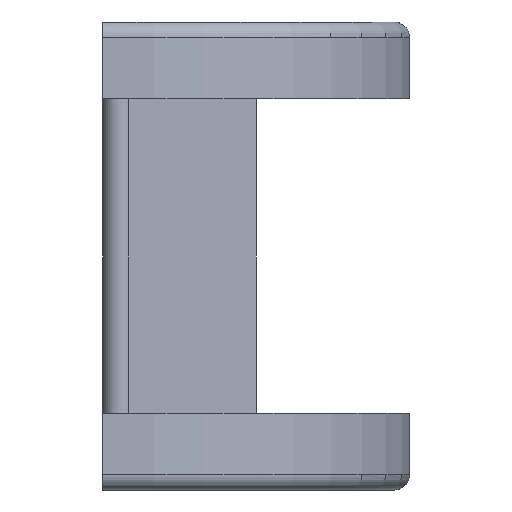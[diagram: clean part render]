
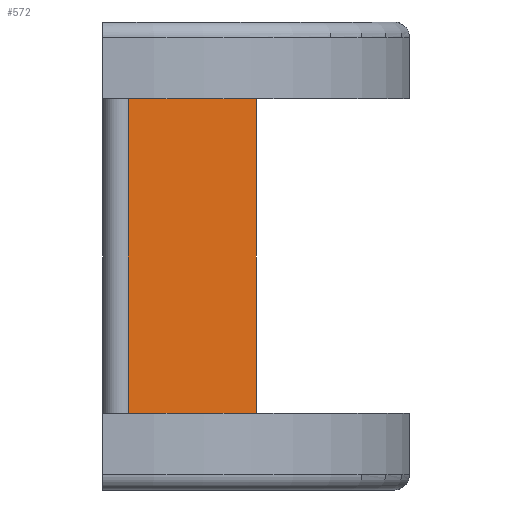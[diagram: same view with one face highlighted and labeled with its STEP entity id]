
A CAD part, front view. The second image highlights one B-rep face of the part: STEP entity #572.
In plain terms, the highlighted planar face has unit normal (0.684, -0.73, 0).
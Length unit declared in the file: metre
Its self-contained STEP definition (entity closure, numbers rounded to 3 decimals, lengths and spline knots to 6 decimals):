
#55=LINE('',#914,#105);
#66=LINE('',#943,#116);
#67=LINE('',#946,#117);
#68=LINE('',#947,#118);
#105=VECTOR('',#727,1.);
#116=VECTOR('',#754,1.);
#117=VECTOR('',#755,1.);
#118=VECTOR('',#756,1.);
#196=ORIENTED_EDGE('',*,*,#339,.F.);
#197=ORIENTED_EDGE('',*,*,#340,.T.);
#198=ORIENTED_EDGE('',*,*,#324,.T.);
#199=ORIENTED_EDGE('',*,*,#341,.F.);
#324=EDGE_CURVE('',#399,#398,#55,.T.);
#339=EDGE_CURVE('',#409,#410,#66,.T.);
#340=EDGE_CURVE('',#409,#399,#67,.T.);
#341=EDGE_CURVE('',#410,#398,#68,.T.);
#398=VERTEX_POINT('',#913);
#399=VERTEX_POINT('',#915);
#409=VERTEX_POINT('',#944);
#410=VERTEX_POINT('',#945);
#467=EDGE_LOOP('',(#196,#197,#198,#199));
#513=FACE_BOUND('',#467,.T.);
#554=PLANE('',#631);
#572=ADVANCED_FACE('',(#513),#554,.F.);
#631=AXIS2_PLACEMENT_3D('',#942,#752,#753);
#727=DIRECTION('',(0.73,0.684,0.));
#752=DIRECTION('',(-0.684,0.73,0.));
#753=DIRECTION('',(-0.73,-0.684,0.));
#754=DIRECTION('',(0.73,0.684,0.));
#755=DIRECTION('',(0.,0.,-1.));
#756=DIRECTION('',(0.,0.,-1.));
#913=CARTESIAN_POINT('',(0.,-0.059531,0.));
#914=CARTESIAN_POINT('',(-0.00635,-0.065484,0.));
#915=CARTESIAN_POINT('',(-0.010561,-0.069433,0.));
#942=CARTESIAN_POINT('',(-0.00635,-0.065484,0.026038));
#943=CARTESIAN_POINT('',(-0.00635,-0.065484,0.026038));
#944=CARTESIAN_POINT('',(-0.010561,-0.069433,0.026038));
#945=CARTESIAN_POINT('',(0.,-0.059531,0.026038));
#946=CARTESIAN_POINT('',(-0.010561,-0.069433,0.026038));
#947=CARTESIAN_POINT('',(0.,-0.059531,0.026038));
